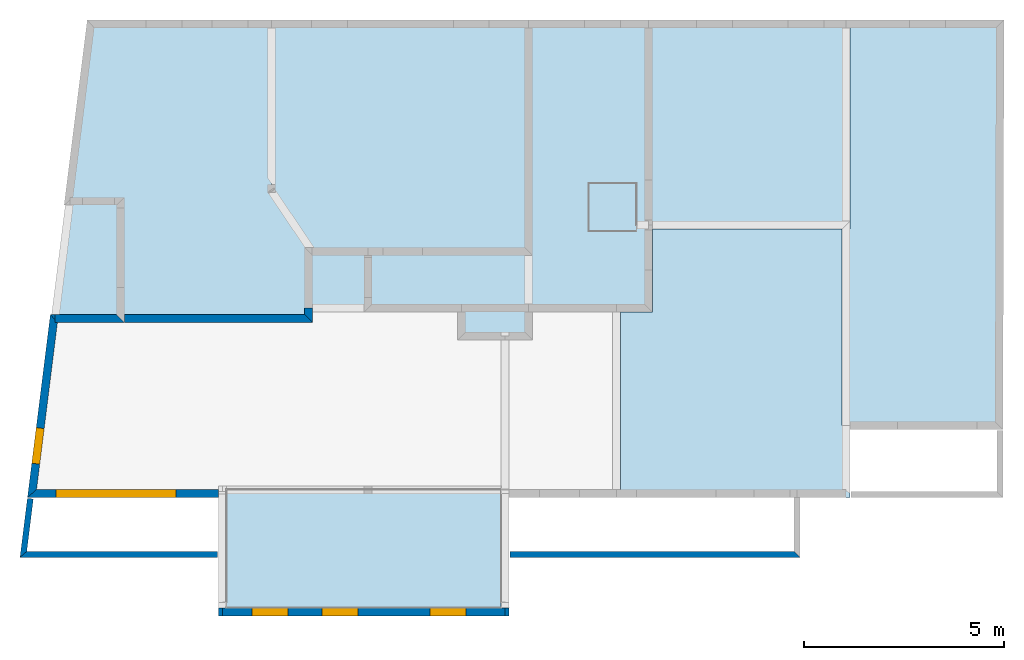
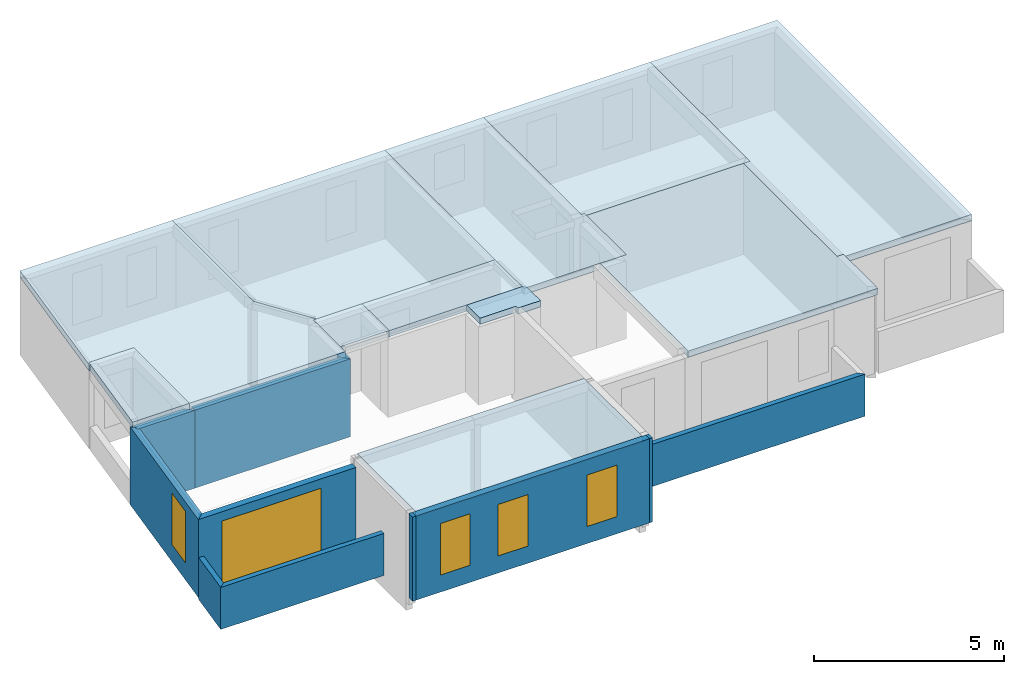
# One storey, part 8 of 11: 12 walls, 11 slabs, 5 windows, 5 openings.
"""IFC2X3 building model written with IfcOpenShell, lengths in metres."""

from ifc_helpers import new_model, si_unit, direction, frame, origin_with_axes, origin_2d, place, context, subcontext, project, spatial, polyline, rectangle, outline, extrude, faceted_brep, material, layer, layer_set, layer_usage, type_object, element, fill, save


model = new_model("IFC2X3")

# Units and contexts
model_context = context("Model", 3, precision=0.0001, world=origin_with_axes(), true_north=direction((0.0, 1.0)))
plan_context = context("Plan", 2, precision=0.0001, world=origin_with_axes(), true_north=direction((0.0, 1.0)))
body_context = subcontext(model_context, "Body", "Model", "MODEL_VIEW")
ifc_project = project(units=[si_unit("MASSUNIT", "GRAM", prefix="KILO"), si_unit("AREAUNIT", "SQUARE_METRE"), si_unit("LENGTHUNIT", "METRE"), si_unit("VOLUMEUNIT", "CUBIC_METRE")], contexts=[plan_context, model_context])

# Site, building, storey
site_placement = place(None, origin_with_axes())
site = spatial("IfcSite", under=ifc_project, at=site_placement, Name="$", CompositionType="ELEMENT")
building_placement = place(site_placement, origin_with_axes())
building = spatial("IfcBuilding", under=site, at=building_placement, Name="Classeur ENS Ensemble", CompositionType="ELEMENT")
storey_placement = place(building_placement, frame((-3.040468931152, -16.07714394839, 6.03), z_axis=(0.0, 0.0, 1.0), x_axis=(1.0, 0.0, 0.0)))
storey = spatial("IfcBuildingStorey", under=building, at=storey_placement, Name="003 R+2", CompositionType="ELEMENT", Elevation=6.03)

# Slabs
ifc_material_1 = material(Name="Default material")
slab_1_placement = place(storey_placement, frame((2.47739430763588, 11.4171439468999, 2.5), z_axis=(0.0, 0.0, 1.0), x_axis=(1.0, 0.0, 0.0)))
element("IfcSlab", 1, at=slab_1_placement, inside=storey, material=ifc_material_1, Name="Dalle BA 20 cm", PredefinedType="FLOOR", context=body_context, shape_type="SweptSolid", held_by="IfcProductRepresentation", body=[
    extrude(outline(polyline([(0.5362879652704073, -1.306329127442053), (-0.02581175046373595, -0.1730161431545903), (0.06377458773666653, -0.1285831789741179), (0.0, 0.0), (-3.898771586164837, -2.581942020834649), (-1.846801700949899, -6.719151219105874), (1.996445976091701, -4.812980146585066), (1.996445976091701, -4.812980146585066), (1.996445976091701, -4.812980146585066), (3.801408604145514, -5.053776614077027), (3.762311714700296, -4.974948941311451), (3.762311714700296, -4.974948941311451), (5.267362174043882, -4.228475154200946), (3.170126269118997, 0.0), (3.170126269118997, 0.0), (0.5362879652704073, -1.306329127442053)])), frame((0.0, 0.0, 0.0), z_axis=(0.0, 0.0, -1.0), x_axis=(0.444329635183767, -0.8958633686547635, 0.0)), (0.0, 0.0, -1.0), 0.2000000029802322),
])
slab_2_placement = place(storey_placement, frame((2.152183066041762, 8.577143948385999, 2.5), z_axis=(0.0, 0.0, 1.0), x_axis=(1.0, 0.0, 0.0)))
element("IfcSlab", 2, at=slab_2_placement, inside=storey, material=ifc_material_1, Name="Dalle BA 20 cm", PredefinedType="FLOOR", context=body_context, shape_type="SweptSolid", held_by="IfcProductRepresentation", body=[
    extrude(outline(polyline([(0.8807202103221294, 1.493441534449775), (0.0, 0.0), (2.719350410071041, -1.176489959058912), (3.413156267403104, -2.220446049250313e-16), (3.413156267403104, -2.220446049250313e-16), (0.8807202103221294, 1.493441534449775)])), frame((0.0, 0.0, 0.0), z_axis=(0.0, 0.0, -1.0), x_axis=(0.5079733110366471, 0.861372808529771, 0.0)), (0.0, 0.0, -1.0), 0.2000000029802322),
])
slab_3_placement = place(storey_placement, frame((14.11597535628, 8.7371439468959, 2.5), z_axis=(0.0, 0.0, 1.0), x_axis=(1.0, 0.0, 0.0)))
element("IfcSlab", 3, at=slab_3_placement, inside=storey, material=ifc_material_1, Name="Dalle BA 20 cm", PredefinedType="FLOOR", context=body_context, shape_type="SweptSolid", held_by="IfcProductRepresentation", body=[
    extrude(outline(polyline([(3.465554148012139, -0.1764625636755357), (4.081855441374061, -1.024600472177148), (3.111085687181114, -1.730012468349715), (2.405673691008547, -0.7592427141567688), (3.376443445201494, -0.05383071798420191), (3.465554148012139, -0.1764625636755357), (3.789294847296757, 0.05878433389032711), (2.5078218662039, 1.822314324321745), (2.5078218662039, 1.822314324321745), (0.0, 0.0), (0.0, 0.0), (4.303013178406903, -5.921695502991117), (6.729937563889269, -4.158165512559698), (3.708397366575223, 2.220446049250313e-16), (3.708397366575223, 2.220446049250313e-16), (3.465554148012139, -0.1764625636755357)])), frame((0.0, 0.0, 0.0), z_axis=(0.0, 0.0, -1.0), x_axis=(0.8089747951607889, 0.5878433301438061, 0.0)), (0.0, 0.0, -1.0), 0.2000000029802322),
])
slab_4_placement = place(storey_placement, frame((10.08597535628, 8.837143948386, 2.5), z_axis=(0.0, 0.0, 1.0), x_axis=(1.0, 0.0, 0.0)))
element("IfcSlab", 4, at=slab_4_placement, inside=storey, material=ifc_material_1, Name="Dalle BA 20 cm", PredefinedType="FLOOR", context=body_context, shape_type="SweptSolid", held_by="IfcProductRepresentation", body=[
    extrude(outline(polyline([(0.0, 0.0), (0.0, -1.420000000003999), (4.029999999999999, -1.420000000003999), (4.029999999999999, 0.0), (4.029999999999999, 0.0), (4.029999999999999, 0.0), (0.0, 0.0)])), frame((0.0, 0.0, 0.0), z_axis=(0.0, 0.0, -1.0), x_axis=(1.0, 0.0, 0.0)), (0.0, 0.0, -1.0), 0.2000000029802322),
])
slab_5_placement = place(storey_placement, frame((8.605975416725, 8.837143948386, 2.5), z_axis=(0.0, 0.0, 1.0), x_axis=(1.0, 0.0, 0.0)))
element("IfcSlab", 5, at=slab_5_placement, inside=storey, material=ifc_material_1, Name="Dalle BA 20 cm", PredefinedType="FLOOR", context=body_context, shape_type="SweptSolid", held_by="IfcProductRepresentation", body=[
    extrude(outline(polyline([(1.420000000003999, -0.08799073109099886), (1.420000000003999, -1.479999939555), (0.0, -1.479999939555), (0.0, 0.0), (1.420000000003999, 0.0), (1.420000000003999, 0.0), (1.420000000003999, -0.08799073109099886)])), frame((0.0, 0.0, 0.0), z_axis=(0.0, 0.0, 1.0), x_axis=(0.0, 1.0, 0.0)), (0.0, 0.0, 1.0), 0.2000000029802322),
])
slab_6_placement = place(storey_placement, frame((12.43597535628, 8.137143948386, 2.5), z_axis=(0.0, 0.0, 1.0), x_axis=(1.0, 0.0, 0.0)))
element("IfcSlab", 6, at=slab_6_placement, inside=storey, material=ifc_material_1, Name="Dalle BA 20 cm", PredefinedType="FLOOR", context=body_context, shape_type="SweptSolid", held_by="IfcProductRepresentation", body=[
    extrude(outline(polyline([(1.619913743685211, 0.7444994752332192), (0.9777829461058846, 0.4919761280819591), (1.014380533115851, 0.3989136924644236), (0.0, 0.0), (0.2561831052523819, -0.6514370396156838), (1.91269443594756, 0.0), (1.91269443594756, 0.0), (1.619913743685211, 0.7444994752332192)])), frame((0.0, 0.0, 0.0), z_axis=(0.0, 0.0, -1.0), x_axis=(0.9306243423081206, 0.3659758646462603, 0.0)), (0.0, 0.0, -1.0), 0.2000000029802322),
])
slab_7_placement = place(storey_placement, frame((7.676247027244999, 11.7671508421, 2.5), z_axis=(0.0, 0.0, 1.0), x_axis=(1.0, 0.0, 0.0)))
element("IfcSlab", 7, at=slab_7_placement, inside=storey, material=ifc_material_1, Name="Dalle BA 20 cm", PredefinedType="FLOOR", context=body_context, shape_type="SweptSolid", held_by="IfcProductRepresentation", body=[
    extrude(outline(polyline([(4.522216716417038, 4.826984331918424), (4.522216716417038, 4.826984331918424), (0.009810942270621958, 1.82092744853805), (0.0, 0.0), (2.378447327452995, -3.570298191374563), (7.737838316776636, -4.440892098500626e-16), (7.737838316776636, -4.440892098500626e-16), (4.522216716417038, 4.826984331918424)])), frame((0.0, 0.0, 0.0), z_axis=(0.0, 0.0, -1.0), x_axis=(0.8322386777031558, 0.5544175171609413, 0.0)), (0.0, 0.0, -1.0), 0.2000000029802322),
])
slab_8_placement = place(storey_placement, frame((17.11597535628, 10.8171006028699, 2.7), z_axis=(0.0, 0.0, 1.0), x_axis=(1.0, 0.0, 0.0)))
element("IfcSlab", 8, at=slab_8_placement, inside=storey, material=ifc_material_1, Name="Dalle BA 20 cm", PredefinedType="FLOOR", context=body_context, shape_type="Brep", held_by="IfcProductRepresentation", body=[
    faceted_brep([(5.053098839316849, -1.77635683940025e-15, -0.2000000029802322), (0.0, 0.0, -0.2000000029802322), (5.052891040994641, 5.2400433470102, -0.2000000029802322), (5.052891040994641, 5.2400433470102, 0.0), (5.053098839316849, -1.77635683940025e-15, 0.0), (5.053098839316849, -1.77635683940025e-15, -0.2000000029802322), (5.052891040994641, 5.2400433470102, -0.2000000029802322), (0.0, 5.2400433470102, 0.0), (5.052891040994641, 5.2400433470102, 0.0), (5.052891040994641, 5.2400433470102, -0.2000000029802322), (0.0, 5.2400433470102, -0.2000000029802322), (0.0, 5.2400433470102, 0.0), (0.0, 0.0, 0.0), (5.052891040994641, 5.2400433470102, 0.0), (5.052891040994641, 5.2400433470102, -0.2000000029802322), (0.0, 0.0, -0.2000000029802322), (0.0, 5.2400433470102, -0.2000000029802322), (0.0, 0.0, 0.0), (0.0, 5.2400433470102, 0.0), (0.0, 5.2400433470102, -0.2000000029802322), (0.0, 0.0, -0.2000000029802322), (5.053098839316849, -1.77635683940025e-15, 0.0), (0.0, 0.0, 0.0), (0.0, 0.0, -0.2000000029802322), (5.053098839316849, -1.77635683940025e-15, -0.2000000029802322), (5.052891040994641, 5.2400433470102, 0.0), (0.0, 0.0, 0.0), (5.053098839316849, -1.77635683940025e-15, 0.0)], [[[0, 1, 2]], [[3, 4, 5, 6]], [[7, 8, 9, 10]], [[11, 12, 13]], [[14, 15, 16]], [[17, 18, 19, 20]], [[21, 22, 23, 24]], [[25, 26, 27]]]),
])
slab_9_placement = place(storey_placement, frame((21.96888526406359, 10.8171006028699, 2.5), z_axis=(0.0, 0.0, 1.0), x_axis=(1.0, 0.0, 0.0)))
element("IfcSlab", 9, at=slab_9_placement, inside=storey, material=ifc_material_1, Name="Dalle BA 20 cm", PredefinedType="FLOOR", context=body_context, shape_type="SweptSolid", held_by="IfcProductRepresentation", body=[
    extrude(outline(polyline([(0.0, 0.0), (-0.1999985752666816, -0.2001863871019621), (-5.240037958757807, -0.2001222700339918), (-5.239934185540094, -4.052950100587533), (5.02002186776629, -4.026606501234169), (5.019913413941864, 2.710505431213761e-20), (5.019913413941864, 2.710505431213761e-20), (0.0, 0.0)])), frame((0.0, 0.0, 0.0), z_axis=(0.0, 0.0, -1.0), x_axis=(2.693429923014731e-05, -0.9999999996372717, 0.0)), (0.0, 0.0, -1.0), 0.2000000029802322),
])
slab_10_placement = place(storey_placement, frame((16.4166202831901, 4.0971439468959, 2.5), z_axis=(0.0, 0.0, 1.0), x_axis=(1.0, 0.0, 0.0)))
element("IfcSlab", 10, at=slab_10_placement, inside=storey, material=ifc_material_1, Name="Dalle BA 20 cm", PredefinedType="FLOOR", context=body_context, shape_type="SweptSolid", held_by="IfcProductRepresentation", body=[
    extrude(outline(polyline([(4.924257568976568, 3.133839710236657), (5.051651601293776, 3.28801740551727), (3.664016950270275, 4.434592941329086), (3.664016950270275, 4.434592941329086), (0.0, 0.0), (3.577002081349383, -2.955445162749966), (4.086150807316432, -2.339217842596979), (5.689601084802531, -3.664044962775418), (8.71696414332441, 0.0), (8.71696414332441, 0.0), (4.924257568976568, 3.133839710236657)])), frame((0.0, 0.0, 0.0), z_axis=(0.0, 0.0, -1.0), x_axis=(0.6369493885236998, 0.7709056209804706, 0.0)), (0.0, 0.0, -1.0), 0.2000000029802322),
])
slab_11_placement = place(storey_placement, frame((6.54597535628, 1.332143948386, 2.5), z_axis=(0.0, 0.0, 1.0), x_axis=(1.0, 0.0, 0.0)))
element("IfcSlab", 11, at=slab_11_placement, inside=storey, material=ifc_material_1, Name="Dalle BA 20 cm", PredefinedType="FLOOR", context=body_context, shape_type="SweptSolid", held_by="IfcProductRepresentation", body=[
    extrude(outline(polyline([(3.0535107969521, -6.880000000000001), (3.0535107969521, -6.880000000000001), (0.0, -6.880000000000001), (0.0, 0.0), (0.0, 0.0), (3.0535107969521, 0.0), (3.0535107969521, 0.0), (3.0535107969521, 0.0), (3.0535107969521, -6.880000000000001)])), frame((0.0, 0.0, 0.0), z_axis=(0.0, 0.0, 1.0), x_axis=(0.0, 1.0, 0.0)), (0.0, 0.0, 1.0), 0.2000000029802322),
])

# Walls
ifc_material_2 = material(Name="mur BBM 15 cm")
ifc_layer_1 = layer(ifc_material_2, 0.1500000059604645)
ifc_layer_set_1 = layer_set([ifc_layer_1], Name="mur BBM 15 cm+")
ifc_layer_usage_1 = layer_usage(ifc_layer_set_1, "AXIS2", "POSITIVE", -0.07500000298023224)
wall_type = type_object("IfcWallType", PredefinedType="STANDARD")
wall_1_placement = place(storey_placement, frame((13.64597535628, 2.672143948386, -0.05000000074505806), z_axis=(0.0, 0.0, 1.0), x_axis=(1.0, 0.0, 0.0)))
element("IfcWall", 12, at=wall_1_placement, inside=storey, type_object=wall_type, material=ifc_layer_usage_1, Name="mur BBM 15 cm", context=body_context, shape_type="SweptSolid", held_by="IfcProductRepresentation", body=[
    extrude(outline(polyline([(0.0, 0.07500000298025), (0.0, 0.07500000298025), (0.0, 0.07500000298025), (7.119999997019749, 0.07500000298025), (7.119999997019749, 0.07500000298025), (7.119999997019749, 0.07500000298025), (7.270000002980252, -0.07500000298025), (7.270000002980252, -0.07500000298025), (7.270000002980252, -0.07500000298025), (0.0, -0.07500000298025), (0.0, -0.07500000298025), (0.0, -0.07500000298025), (0.0, 0.07500000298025)])), origin_with_axes(), (0.0, 0.0, 1.0), 1.350000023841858),
])
ifc_material_3 = material(Name="mur BBM 15 cm")
ifc_layer_2 = layer(ifc_material_3, 0.1500000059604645)
ifc_layer_set_2 = layer_set([ifc_layer_2], Name="mur BBM 15 cm+")
ifc_layer_usage_2 = layer_usage(ifc_layer_set_2, "AXIS2", "POSITIVE", -0.07500000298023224)
wall_2_placement = place(storey_placement, frame((1.45848328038, 2.672143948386, -0.05000000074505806), z_axis=(0.0, 0.0, 1.0), x_axis=(1.0, 0.0, 0.0)))
element("IfcWall", 13, at=wall_2_placement, inside=storey, type_object=wall_type, material=ifc_layer_usage_2, Name="mur BBM 15 cm", context=body_context, shape_type="SweptSolid", held_by="IfcProductRepresentation", body=[
    extrude(outline(polyline([(0.08497188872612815, 0.07500000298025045), (0.08497188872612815, 0.07500000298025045), (0.08497188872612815, 0.07500000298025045), (4.8674920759, 0.07500000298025), (4.8674920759, 0.07500000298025), (4.8674920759, 0.07500000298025), (4.8674920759, -0.07500000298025), (4.8674920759, -0.07500000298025), (4.8674920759, -0.07500000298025), (-0.08497188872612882, -0.07500000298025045), (-0.08497188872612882, -0.07500000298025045), (-0.0849718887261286, -0.07500000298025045), (0.08497188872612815, 0.07500000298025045)])), origin_with_axes(), (0.0, 0.0, 1.0), 1.350000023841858),
])
ifc_material_4 = material(Name="mur BBM 15 cm")
ifc_layer_3 = layer(ifc_material_4, 0.1500000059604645)
ifc_layer_set_3 = layer_set([ifc_layer_3], Name="mur BBM 15 cm+")
ifc_layer_usage_3 = layer_usage(ifc_layer_set_3, "AXIS2", "POSITIVE", -0.07500000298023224)
wall_3_placement = place(storey_placement, frame((1.45848328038, 2.672143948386, -0.05000000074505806), z_axis=(0.0, 0.0, 1.0), x_axis=(0.1241879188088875, 0.9922587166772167, 0.0)))
element("IfcWall", 14, at=wall_3_placement, inside=storey, type_object=wall_type, material=ifc_layer_usage_3, Name="mur BBM 15 cm", context=body_context, shape_type="SweptSolid", held_by="IfcProductRepresentation", body=[
    extrude(outline(polyline([(-0.0849718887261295, 0.07500000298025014), (-0.08497188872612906, 0.0750000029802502), (-0.08497188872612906, 0.0750000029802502), (1.406574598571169, 0.07500000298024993), (1.406574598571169, 0.07500000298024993), (1.406574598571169, 0.07500000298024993), (1.406574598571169, -0.07500000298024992), (1.406574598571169, -0.07500000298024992), (1.406574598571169, -0.07500000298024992), (0.08497188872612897, -0.07500000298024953), (0.08497188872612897, -0.07500000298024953), (0.08497188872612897, -0.07500000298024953), (-0.0849718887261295, 0.07500000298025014)])), origin_with_axes(), (0.0, 0.0, 1.0), 1.350000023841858),
])
ifc_material_5 = material(Name="mur BBM 20 cm")
ifc_layer_4 = layer(ifc_material_5, 0.2000000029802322)
ifc_layer_set_4 = layer_set([ifc_layer_4], Name="mur BBM 20 cm+")
ifc_layer_usage_4 = layer_usage(ifc_layer_set_4, "AXIS2", "POSITIVE", -0.1000000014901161)
wall_4_placement = place(storey_placement, frame((2.222729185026, 8.577143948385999, 0.0), z_axis=(0.0, 0.0, 1.0), x_axis=(1.0, 0.0, 0.0)))
element("IfcWall", 15, at=wall_4_placement, inside=storey, type_object=wall_type, material=ifc_layer_usage_4, Name="mur BBM 20 cm", context=body_context, shape_type="SweptSolid", held_by="IfcProductRepresentation", body=[
    extrude(outline(polyline([(-0.08826448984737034, 0.1000000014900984), (-0.08826448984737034, 0.1000000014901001), (-0.08826448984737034, 0.1000000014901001), (-0.05803043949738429, 0.1000000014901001), (-0.05803043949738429, 0.1000000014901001), (0.03023405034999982, 0.1000000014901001), (0.03023405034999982, -0.1000000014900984), (0.03023405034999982, -0.1000000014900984), (0.03023405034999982, -0.1000000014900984), (0.0882644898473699, -0.1000000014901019), (0.0882644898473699, -0.1000000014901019), (0.0882644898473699, -0.1000000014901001), (-0.08826448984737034, 0.1000000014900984)])), origin_with_axes(), (0.0, 0.0, 1.0), 2.5),
])
ifc_material_6 = material(Name="voile BA 20 cm")
ifc_layer_5 = layer(ifc_material_6, 0.2000000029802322)
ifc_layer_set_5 = layer_set([ifc_layer_5], Name="voile BA 20 cm+")
ifc_layer_usage_5 = layer_usage(ifc_layer_set_5, "AXIS2", "POSITIVE", -0.1000000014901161)
wall_5_placement = place(storey_placement, frame((3.88597535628, 8.577143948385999, 0.0), z_axis=(0.0, 0.0, 1.0), x_axis=(1.0, 0.0, 0.0)))
element("IfcWall", 16, at=wall_5_placement, inside=storey, type_object=wall_type, material=ifc_layer_usage_5, Name="voile BA 20 cm", context=body_context, shape_type="SweptSolid", held_by="IfcProductRepresentation", body=[
    extrude(outline(polyline([(0.1000000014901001, 0.1000000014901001), (0.1000000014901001, 0.1000000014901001), (0.1000000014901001, 0.1000000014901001), (4.6200000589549, 0.1000000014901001), (4.6200000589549, 0.1000000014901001), (4.6200000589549, 0.1000000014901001), (4.820000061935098, -0.1000000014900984), (4.820000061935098, -0.1000000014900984), (4.820000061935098, -0.1000000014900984), (0.1000000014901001, -0.1000000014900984), (0.1000000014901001, -0.1000000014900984), (0.1000000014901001, -0.1000000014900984), (0.1000000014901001, 0.1000000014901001)])), origin_with_axes(), (0.0, 0.0, 1.0), 2.5),
])
ifc_material_7 = material(Name="voile BA 20 cm")
ifc_layer_6 = layer(ifc_material_7, 0.2000000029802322)
ifc_layer_set_6 = layer_set([ifc_layer_6], Name="voile BA 20 cm+")
ifc_layer_usage_6 = layer_usage(ifc_layer_set_6, "AXIS2", "POSITIVE", -0.1000000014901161)
wall_6_placement = place(storey_placement, frame((8.605975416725, 8.577143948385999, 0.0), z_axis=(0.0, 0.0, 1.0), x_axis=(0.0, 1.0, 0.0)))
element("IfcWall", 17, at=wall_6_placement, inside=storey, type_object=wall_type, material=ifc_layer_usage_6, Name="voile BA 20 cm", context=body_context, shape_type="SweptSolid", held_by="IfcProductRepresentation", body=[
    extrude(outline(polyline([(0.1000000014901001, 0.1000000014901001), (0.1000000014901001, 0.1000000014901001), (0.1000000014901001, 0.1000000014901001), (0.2600000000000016, 0.1000000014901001), (0.2600000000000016, 0.1000000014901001), (0.2600000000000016, 0.1000000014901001), (0.2600000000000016, -0.1000000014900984), (0.2600000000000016, -0.1000000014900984), (0.2600000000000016, -0.1000000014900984), (-0.1000000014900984, -0.1000000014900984), (-0.1000000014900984, -0.1000000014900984), (-0.1000000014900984, -0.1000000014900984), (0.1000000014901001, 0.1000000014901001)])), origin_with_axes(), (0.0, 0.0, 1.0), 2.5),
])

# Wall, opening, window
ifc_material_8 = material(Name="mur BBM 20 cm")
ifc_layer_7 = layer(ifc_material_8, 0.2000000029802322)
ifc_layer_set_7 = layer_set([ifc_layer_7], Name="mur BBM 20 cm+")
ifc_layer_usage_7 = layer_usage(ifc_layer_set_7, "AXIS2", "POSITIVE", -0.1000000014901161)
wall_7_placement = place(storey_placement, frame((1.674516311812, 4.196935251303, 0.0), z_axis=(0.0, 0.0, 1.0), x_axis=(0.9999999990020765, 4.46749037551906e-05, 0.0)))
wall_7 = element("IfcWall", 18, at=wall_7_placement, inside=storey, type_object=wall_type, material=ifc_layer_usage_7, Name="mur BBM 20 cm", context=body_context, shape_type="SweptSolid", held_by="IfcProductRepresentation", body=[
    extrude(outline(polyline([(0.1133009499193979, 0.1000000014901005), (0.1133009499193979, 0.1000000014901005), (0.1133009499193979, 0.1000000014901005), (4.671463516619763, 0.1000000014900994), (4.671463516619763, 0.1000000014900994), (4.671463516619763, 0.1000000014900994), (4.671463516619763, -0.1000000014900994), (4.671463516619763, -0.1000000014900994), (4.671463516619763, -0.1000000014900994), (-0.1133009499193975, -0.100000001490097), (-0.1133009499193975, -0.100000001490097), (-0.1133009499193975, -0.1000000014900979), (0.1133009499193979, 0.1000000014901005)])), origin_with_axes(), (0.0, 0.0, 1.0), 2.5),
])
opening_1_placement = place(wall_7_placement, frame((2.101997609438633, 0.1000000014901, 0.2000000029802), z_axis=(0.0, 0.0, 1.0), x_axis=(1.0, 0.0, 0.0)))
opening_1 = element("IfcOpeningElement", 19, at=opening_1_placement, cuts=wall_7, Name="BL 300 x 215", context=body_context, shape_type="SweptSolid", held_by="IfcProductRepresentation", body=[
    extrude(rectangle(XDim=3.0, YDim=2.0, at=origin_2d()), frame((0.0, 0.0, 1.0), z_axis=(0.0, -1.0, 0.0), x_axis=(1.0, 0.0, 0.0)), (0.0, 0.0, 1.0), 0.2000000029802),
])
window_1_placement = place(opening_1_placement, origin_with_axes())
window_1 = element("IfcWindow", 20, at=window_1_placement, inside=storey, Name="BL 300 x 215", OverallHeight=2.0, OverallWidth=3.0, context=body_context, shape_type="SweptSolid", held_by="IfcProductRepresentation", body=[
    extrude(rectangle(XDim=3.0, YDim=2.0, at=origin_2d()), frame((0.0, 0.0, 1.0), z_axis=(0.0, -1.0, 0.0), x_axis=(1.0, 0.0, 0.0)), (0.0, 0.0, 1.0), 0.2000000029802),
])
fill(opening_1, window_1)

ifc_material_9 = material(Name="mur BBM 20 cm")
ifc_layer_8 = layer(ifc_material_9, 0.2000000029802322)
ifc_layer_set_8 = layer_set([ifc_layer_8], Name="mur BBM 20 cm+")
ifc_layer_usage_8 = layer_usage(ifc_layer_set_8, "AXIS2", "POSITIVE", -0.1000000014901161)
wall_8_placement = place(storey_placement, frame((1.674516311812, 4.196935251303, 0.0), z_axis=(0.0, 0.0, 1.0), x_axis=(0.1241879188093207, 0.9922587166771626, 0.0)))
wall_8 = element("IfcWall", 21, at=wall_8_placement, inside=storey, type_object=wall_type, material=ifc_layer_usage_8, Name="mur BBM 20 cm", context=body_context, shape_type="SweptSolid", held_by="IfcProductRepresentation", body=[
    extrude(outline(polyline([(-0.1133009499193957, 0.1000000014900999), (-0.1133009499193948, 0.1000000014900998), (-0.1133009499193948, 0.1000000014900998), (4.502646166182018, 0.1000000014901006), (4.502646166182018, 0.1000000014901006), (4.502646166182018, 0.1000000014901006), (4.326117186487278, -0.1000000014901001), (4.326117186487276, -0.1000000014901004), (4.326117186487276, -0.1000000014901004), (0.1133009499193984, -0.1000000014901), (0.1133009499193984, -0.1000000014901), (0.1133009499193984, -0.1000000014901), (-0.1133009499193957, 0.1000000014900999)])), origin_with_axes(), (0.0, 0.0, 1.0), 2.5),
])
opening_2_placement = place(wall_8_placement, frame((1.201021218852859, 0.1000000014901, 0.5500000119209), z_axis=(0.0, 0.0, 1.0), x_axis=(1.0, 0.0, 0.0)))
opening_2 = element("IfcOpeningElement", 22, at=opening_2_placement, cuts=wall_8, Name="BL 90 x 165", context=body_context, shape_type="SweptSolid", held_by="IfcProductRepresentation", body=[
    extrude(rectangle(XDim=0.8999999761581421, YDim=1.649999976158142, at=origin_2d()), frame((0.0, 0.0, 0.824999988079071), z_axis=(0.0, -1.0, 0.0), x_axis=(1.0, 0.0, 0.0)), (0.0, 0.0, 1.0), 0.2000000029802),
])
window_2_placement = place(opening_2_placement, origin_with_axes())
window_2 = element("IfcWindow", 23, at=window_2_placement, inside=storey, Name="BL 90 x 165", OverallHeight=1.649999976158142, OverallWidth=0.8999999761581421, context=body_context, shape_type="SweptSolid", held_by="IfcProductRepresentation", body=[
    extrude(rectangle(XDim=0.8999999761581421, YDim=1.649999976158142, at=origin_2d()), frame((0.0, 0.0, 0.824999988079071), z_axis=(0.0, -1.0, 0.0), x_axis=(1.0, 0.0, 0.0)), (0.0, 0.0, 1.0), 0.2000000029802),
])
fill(opening_2, window_2)

# Walls
ifc_material_10 = material(Name="mur BBM 20 cm")
ifc_layer_9 = layer(ifc_material_10, 0.2000000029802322)
ifc_layer_set_9 = layer_set([ifc_layer_9], Name="mur BBM 20 cm+")
ifc_layer_usage_9 = layer_usage(ifc_layer_set_9, "AXIS2", "POSITIVE", -0.1000000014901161)
wall_9_placement = place(storey_placement, frame((2.252963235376, 8.577143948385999, 0.0), z_axis=(0.0, 0.0, 1.0), x_axis=(1.0, 0.0, 0.0)))
element("IfcWall", 24, at=wall_9_placement, inside=storey, type_object=wall_type, material=ifc_layer_usage_9, Name="mur BBM 20 cm", context=body_context, shape_type="SweptSolid", held_by="IfcProductRepresentation", body=[
    extrude(outline(polyline([(0.0, 0.1000000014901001), (0.1132958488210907, 0.1000000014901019), (0.1132958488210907, 0.1000000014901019), (1.5330121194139, 0.1000000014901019), (1.5330121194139, 0.1000000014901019), (1.5330121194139, 0.1000000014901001), (1.733012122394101, -0.1000000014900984), (1.733012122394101, -0.1000000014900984), (1.733012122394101, -0.1000000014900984), (0.0, -0.1000000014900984), (0.0, -0.1000000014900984), (0.0, -0.1000000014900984), (0.0, 0.1000000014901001)])), origin_with_axes(), (0.0, 0.0, 1.0), 2.5),
])
ifc_material_11 = material(Name="PV BA 20 cm")
ifc_layer_10 = layer(ifc_material_11, 0.2000000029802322)
ifc_layer_set_10 = layer_set([ifc_layer_10], Name="PV BA 20 cm+")
ifc_layer_usage_10 = layer_usage(ifc_layer_set_10, "AXIS2", "POSITIVE", -0.1000000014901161)
wall_10_placement = place(storey_placement, frame((6.345975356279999, 1.232143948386, 0.0), z_axis=(0.0, 0.0, 1.0), x_axis=(1.0, 0.0, 0.0)))
element("IfcWall", 25, at=wall_10_placement, inside=storey, type_object=wall_type, material=ifc_layer_usage_10, Name="PV BA 20 cm", context=body_context, shape_type="SweptSolid", held_by="IfcProductRepresentation", body=[
    extrude(outline(polyline([(0.0, 0.1000000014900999), (0.0, 0.1000000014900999), (0.0, 0.1000000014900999), (0.1000000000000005, 0.1000000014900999), (0.1000000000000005, 0.1000000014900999), (0.1000000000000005, 0.1000000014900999), (0.1000000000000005, -0.1000000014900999), (0.1000000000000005, -0.1000000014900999), (0.1000000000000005, -0.1000000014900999), (0.0, -0.1000000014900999), (0.0, -0.1000000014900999), (0.0, -0.1000000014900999), (0.0, 0.1000000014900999)])), origin_with_axes(), (0.0, 0.0, 1.0), 2.700000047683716),
])
ifc_material_12 = material(Name="PV BA 20 cm")
ifc_layer_11 = layer(ifc_material_12, 0.2000000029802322)
ifc_layer_set_11 = layer_set([ifc_layer_11], Name="PV BA 20 cm+")
ifc_layer_usage_11 = layer_usage(ifc_layer_set_11, "AXIS2", "POSITIVE", -0.1000000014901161)
wall_11_placement = place(storey_placement, frame((13.52597535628, 1.232143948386, 0.0), z_axis=(0.0, 0.0, 1.0), x_axis=(1.0, 0.0, 0.0)))
element("IfcWall", 26, at=wall_11_placement, inside=storey, type_object=wall_type, material=ifc_layer_usage_11, Name="PV BA 20 cm", context=body_context, shape_type="SweptSolid", held_by="IfcProductRepresentation", body=[
    extrude(outline(polyline([(0.0, 0.1000000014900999), (0.0, 0.1000000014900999), (0.0, 0.1000000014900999), (0.09999999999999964, 0.1000000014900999), (0.09999999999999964, 0.1000000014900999), (0.09999999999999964, 0.1000000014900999), (0.09999999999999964, -0.1000000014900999), (0.09999999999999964, -0.1000000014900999), (0.09999999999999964, -0.1000000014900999), (0.0, -0.1000000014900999), (0.0, -0.1000000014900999), (0.0, -0.1000000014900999), (0.0, 0.1000000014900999)])), origin_with_axes(), (0.0, 0.0, 1.0), 2.700000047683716),
])

# Wall, openings, windows
ifc_material_13 = material(Name="PV BA 20 cm")
ifc_layer_12 = layer(ifc_material_13, 0.2000000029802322)
ifc_layer_set_12 = layer_set([ifc_layer_12], Name="PV BA 20 cm+")
ifc_layer_usage_12 = layer_usage(ifc_layer_set_12, "AXIS2", "POSITIVE", -0.1000000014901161)
wall_12_placement = place(storey_placement, frame((6.44597535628, 1.232143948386, 0.0), z_axis=(0.0, 0.0, 1.0), x_axis=(1.0, 0.0, 0.0)))
wall_12 = element("IfcWall", 27, at=wall_12_placement, inside=storey, type_object=wall_type, material=ifc_layer_usage_12, Name="PV BA 20 cm", context=body_context, shape_type="SweptSolid", held_by="IfcProductRepresentation", body=[
    extrude(outline(polyline([(0.0, 0.1000000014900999), (0.0, 0.1000000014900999), (0.0, 0.1000000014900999), (7.08, 0.1000000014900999), (7.08, 0.1000000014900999), (7.08, 0.1000000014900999), (7.08, -0.1000000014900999), (7.08, -0.1000000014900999), (7.08, -0.1000000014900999), (0.0, -0.1000000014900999), (0.0, -0.1000000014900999), (0.0, -0.1000000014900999), (0.0, 0.1000000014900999)])), origin_with_axes(), (0.0, 0.0, 1.0), 2.700000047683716),
])
opening_3_placement = place(wall_12_placement, frame((1.19092151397, 0.1000000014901, 0.5500000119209), z_axis=(0.0, 0.0, 1.0), x_axis=(1.0, 0.0, 0.0)))
opening_3 = element("IfcOpeningElement", 28, at=opening_3_placement, cuts=wall_12, Name="BL 90 x 165", context=body_context, shape_type="SweptSolid", held_by="IfcProductRepresentation", body=[
    extrude(rectangle(XDim=0.8999999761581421, YDim=1.649999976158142, at=origin_2d()), frame((0.0, 0.0, 0.824999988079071), z_axis=(0.0, -1.0, 0.0), x_axis=(1.0, 0.0, 0.0)), (0.0, 0.0, 1.0), 0.2000000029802),
])
opening_4_placement = place(wall_12_placement, frame((2.944958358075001, 0.1000000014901, 0.5500000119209), z_axis=(0.0, 0.0, 1.0), x_axis=(1.0, 0.0, 0.0)))
opening_4 = element("IfcOpeningElement", 29, at=opening_4_placement, cuts=wall_12, Name="BL 90 x 165", context=body_context, shape_type="SweptSolid", held_by="IfcProductRepresentation", body=[
    extrude(rectangle(XDim=0.8999999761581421, YDim=1.649999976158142, at=origin_2d()), frame((0.0, 0.0, 0.824999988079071), z_axis=(0.0, -1.0, 0.0), x_axis=(1.0, 0.0, 0.0)), (0.0, 0.0, 1.0), 0.2000000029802),
])
opening_5_placement = place(wall_12_placement, frame((5.644188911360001, 0.1000000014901, 0.5500000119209), z_axis=(0.0, 0.0, 1.0), x_axis=(1.0, 0.0, 0.0)))
opening_5 = element("IfcOpeningElement", 30, at=opening_5_placement, cuts=wall_12, Name="BL 90 x 165", context=body_context, shape_type="SweptSolid", held_by="IfcProductRepresentation", body=[
    extrude(rectangle(XDim=0.8999999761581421, YDim=1.649999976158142, at=origin_2d()), frame((0.0, 0.0, 0.824999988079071), z_axis=(0.0, -1.0, 0.0), x_axis=(1.0, 0.0, 0.0)), (0.0, 0.0, 1.0), 0.2000000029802),
])
window_3_placement = place(opening_3_placement, origin_with_axes())
window_3 = element("IfcWindow", 31, at=window_3_placement, inside=storey, Name="BL 90 x 165", OverallHeight=1.649999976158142, OverallWidth=0.8999999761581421, context=body_context, shape_type="SweptSolid", held_by="IfcProductRepresentation", body=[
    extrude(rectangle(XDim=0.8999999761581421, YDim=1.649999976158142, at=origin_2d()), frame((0.0, 0.0, 0.824999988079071), z_axis=(0.0, -1.0, 0.0), x_axis=(1.0, 0.0, 0.0)), (0.0, 0.0, 1.0), 0.2000000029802),
])
fill(opening_3, window_3)
window_4_placement = place(opening_4_placement, origin_with_axes())
window_4 = element("IfcWindow", 32, at=window_4_placement, inside=storey, Name="BL 90 x 165", OverallHeight=1.649999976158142, OverallWidth=0.8999999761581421, context=body_context, shape_type="SweptSolid", held_by="IfcProductRepresentation", body=[
    extrude(rectangle(XDim=0.8999999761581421, YDim=1.649999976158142, at=origin_2d()), frame((0.0, 0.0, 0.824999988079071), z_axis=(0.0, -1.0, 0.0), x_axis=(1.0, 0.0, 0.0)), (0.0, 0.0, 1.0), 0.2000000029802),
])
fill(opening_4, window_4)
window_5_placement = place(opening_5_placement, origin_with_axes())
window_5 = element("IfcWindow", 33, at=window_5_placement, inside=storey, Name="BL 90 x 165", OverallHeight=1.649999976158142, OverallWidth=0.8999999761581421, context=body_context, shape_type="SweptSolid", held_by="IfcProductRepresentation", body=[
    extrude(rectangle(XDim=0.8999999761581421, YDim=1.649999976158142, at=origin_2d()), frame((0.0, 0.0, 0.824999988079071), z_axis=(0.0, -1.0, 0.0), x_axis=(1.0, 0.0, 0.0)), (0.0, 0.0, 1.0), 0.2000000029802),
])
fill(opening_5, window_5)

save(model, "model.ifc")
